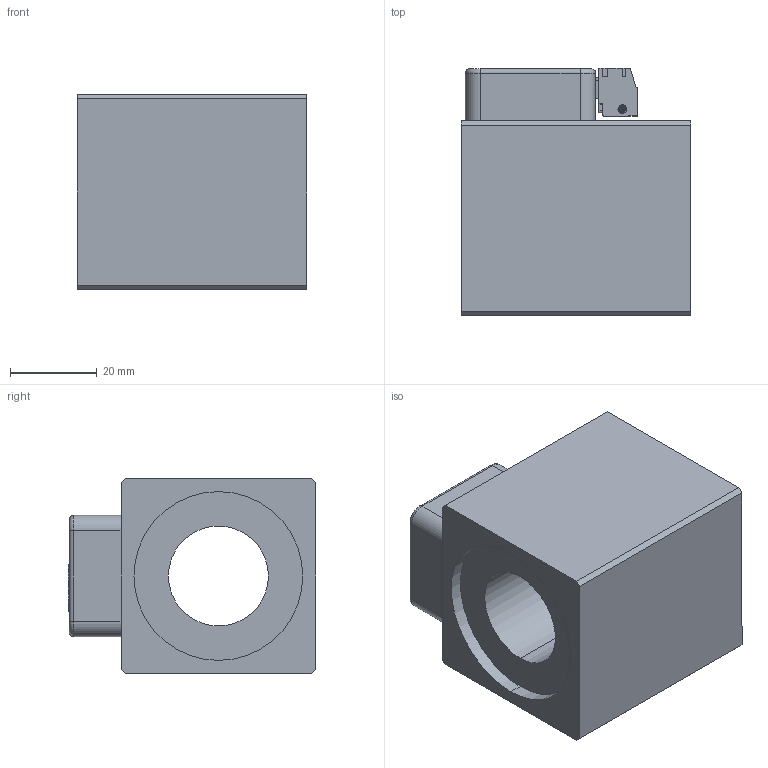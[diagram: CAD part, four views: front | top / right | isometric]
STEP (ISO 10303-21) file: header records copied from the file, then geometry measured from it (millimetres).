
FILE_DESCRIPTION (( 'STEP AP214' ), '1' );
FILE_NAME ('MXS45_23x50-M222b.STEP', '2015-07-17T06:06:51', ( '' ), ( '' ), 'SwSTEP 2.0', 'SolidWorks 2014', '' );
FILE_SCHEMA (( 'AUTOMOTIVE_DESIGN' ));
Length unit declared in the file: millimetre
Products named in the file (2): MXS45_23x50-M222b
Bounding box: 53 x 57.2 x 45 mm (x, y, z)
Volume: 92158.5 mm3; surface area: 20567.7 mm2
Topology: 1 solids, 3 shells, 469 faces, 1273 edges, 819 vertices
Faces by surface type: plane 230, cylinder 189, bspline 24, cone 14, torus 12
Entity records: 20699 total; most frequent: CARTESIAN_POINT 4019, ORIENTED_EDGE 2538, DIRECTION 2259, EDGE_CURVE 1269, VERTEX_POINT 819, VECTOR 817, LINE 817, AXIS2_PLACEMENT_3D 721
